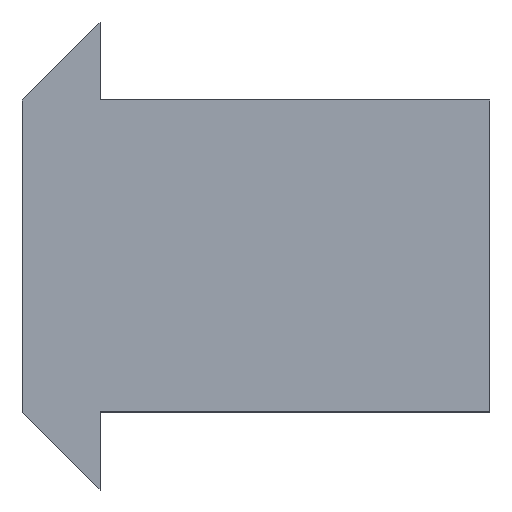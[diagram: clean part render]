
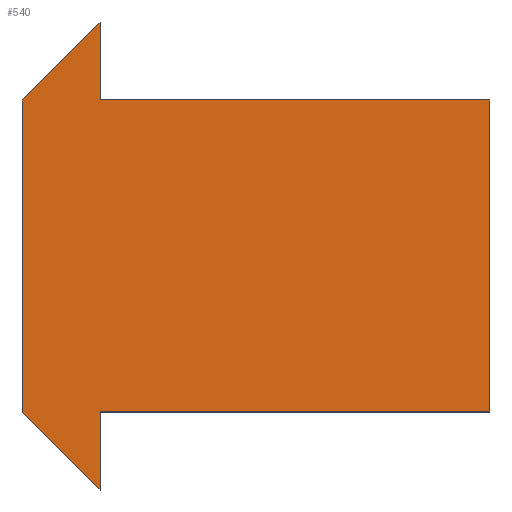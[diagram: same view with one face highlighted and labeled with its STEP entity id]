
A CAD part, left-side view. The second image highlights one B-rep face of the part: STEP entity #540.
In plain terms, the highlighted planar face has unit normal (-1, 0, 0).
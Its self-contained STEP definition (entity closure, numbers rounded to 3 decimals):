
#294=ORIENTED_EDGE('',*,*,#396,.T.);
#295=ORIENTED_EDGE('',*,*,#375,.T.);
#296=ORIENTED_EDGE('',*,*,#379,.T.);
#297=ORIENTED_EDGE('',*,*,#382,.T.);
#298=ORIENTED_EDGE('',*,*,#385,.T.);
#299=ORIENTED_EDGE('',*,*,#388,.T.);
#300=ORIENTED_EDGE('',*,*,#391,.T.);
#301=ORIENTED_EDGE('',*,*,#394,.T.);
#311=VECTOR('',#421,1.);
#315=VECTOR('',#427,1.);
#318=VECTOR('',#432,1.);
#321=VECTOR('',#437,1.);
#324=VECTOR('',#442,1.);
#327=VECTOR('',#447,1.);
#330=VECTOR('',#452,1.);
#332=VECTOR('',#456,1.);
#335=LINE('',#467,#311);
#339=LINE('',#475,#315);
#342=LINE('',#481,#318);
#345=LINE('',#487,#321);
#348=LINE('',#493,#324);
#351=LINE('',#499,#327);
#354=LINE('',#505,#330);
#356=LINE('',#508,#332);
#359=VERTEX_POINT('',#464);
#360=VERTEX_POINT('',#466);
#363=VERTEX_POINT('',#473);
#365=VERTEX_POINT('',#479);
#367=VERTEX_POINT('',#485);
#369=VERTEX_POINT('',#491);
#371=VERTEX_POINT('',#497);
#373=VERTEX_POINT('',#503);
#375=EDGE_CURVE('',#360,#359,#335,.T.);
#379=EDGE_CURVE('',#359,#363,#339,.T.);
#382=EDGE_CURVE('',#363,#365,#342,.T.);
#385=EDGE_CURVE('',#365,#367,#345,.T.);
#388=EDGE_CURVE('',#367,#369,#348,.T.);
#391=EDGE_CURVE('',#369,#371,#351,.T.);
#394=EDGE_CURVE('',#371,#373,#354,.T.);
#396=EDGE_CURVE('',#373,#360,#356,.T.);
#406=EDGE_LOOP('',(#294,#295,#296,#297,#298,#299,#300,#301));
#416=FACE_BOUND('',#406,.T.);
#421=DIRECTION('',(0.,2.,-2.));
#427=DIRECTION('',(0.,0.,-8.));
#432=DIRECTION('',(0.,-2.,-2.));
#437=DIRECTION('',(0.,0.,2.));
#442=DIRECTION('',(0.,-10.,0.));
#447=DIRECTION('',(0.,0.,8.));
#452=DIRECTION('',(0.,10.,0.));
#456=DIRECTION('',(0.,0.,2.));
#458=DIRECTION('',(-1.,0.,0.));
#459=DIRECTION('',(0.,1.,0.));
#464=CARTESIAN_POINT('',(0.,2.,4.));
#466=CARTESIAN_POINT('',(0.,0.,6.));
#467=CARTESIAN_POINT('',(0.,0.,6.));
#473=CARTESIAN_POINT('',(0.,2.,-4.));
#475=CARTESIAN_POINT('',(0.,2.,4.));
#479=CARTESIAN_POINT('',(0.,0.,-6.));
#481=CARTESIAN_POINT('',(0.,2.,-4.));
#485=CARTESIAN_POINT('',(0.,0.,-4.));
#487=CARTESIAN_POINT('',(0.,0.,-6.));
#491=CARTESIAN_POINT('',(0.,-10.,-4.));
#493=CARTESIAN_POINT('',(0.,0.,-4.));
#497=CARTESIAN_POINT('',(0.,-10.,4.));
#499=CARTESIAN_POINT('',(0.,-10.,-4.));
#503=CARTESIAN_POINT('',(0.,0.,4.));
#505=CARTESIAN_POINT('',(0.,-10.,4.));
#508=CARTESIAN_POINT('',(0.,0.,4.));
#510=CARTESIAN_POINT('',(0.,0.,4.));
#520=AXIS2_PLACEMENT_3D('',#510,#458,#459);
#530=PLANE('',#520);
#540=ADVANCED_FACE('',(#416),#530,.T.);
